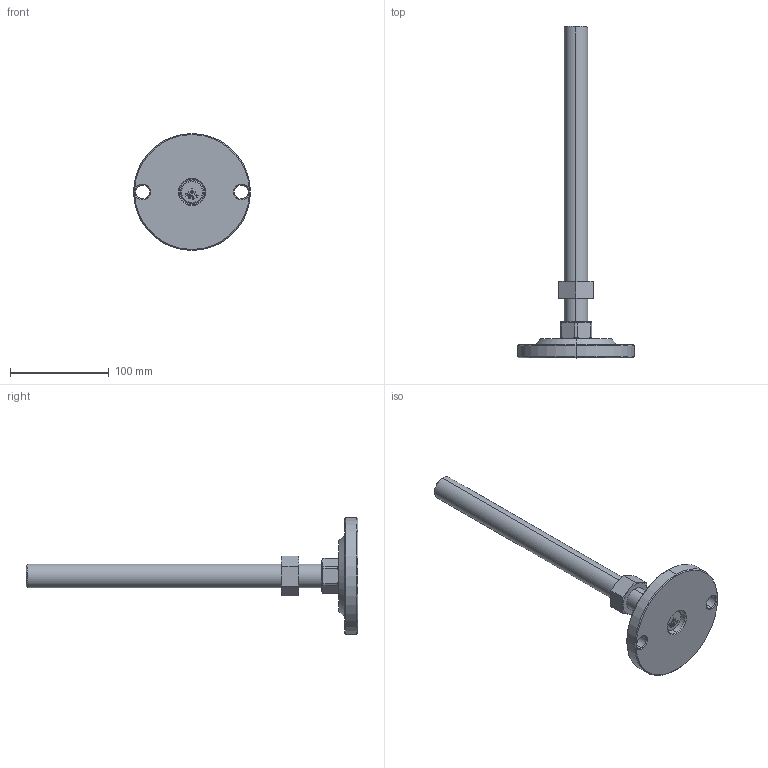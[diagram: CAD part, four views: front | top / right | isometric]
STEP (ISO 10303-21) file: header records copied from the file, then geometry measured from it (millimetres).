
FILE_DESCRIPTION (( 'STEP AP203' ), '1' );
FILE_NAME ('KL-120-24300-P.STEP', '2020-09-10T02:40:26', ( '' ), ( '' ), 'SwSTEP 2.0', 'SolidWorks 2016', '' );
FILE_SCHEMA (( 'CONFIG_CONTROL_DESIGN' ));
Length unit declared in the file: millimetre
Products named in the file (5): 螺丝平底十字带商标M10系列_M10X14; KL-120-0.1 KL120菁釱; KL-120-24300-P; 眻芛蹟邡M24炵蹈_M24X300; 脚垫调节六角螺母M24
Assembly tree (4 placements, depth 2):
  KL-120-24300-P
    KL-120-0.1 KL120菁釱
    眻芛蹟邡M24炵蹈_M24X300
    脚垫调节六角螺母M24
    螺丝平底十字带商标M10系列_M10X14
Bounding box: 118.5 x 336.5 x 118.5 mm (x, y, z)
Volume: 331832.6 mm3; surface area: 61604.6 mm2
Topology: 4 solids, 4 shells, 210 faces, 511 edges, 324 vertices
Faces by surface type: plane 101, cone 52, cylinder 33, bspline 24
Entity records: 8380 total; most frequent: CARTESIAN_POINT 3120, ORIENTED_EDGE 1014, DIRECTION 903, EDGE_CURVE 507, VERTEX_POINT 324, AXIS2_PLACEMENT_3D 307, LINE 289, VECTOR 289
